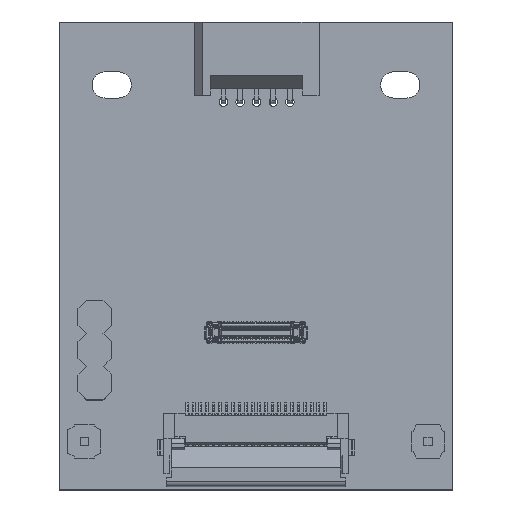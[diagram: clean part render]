
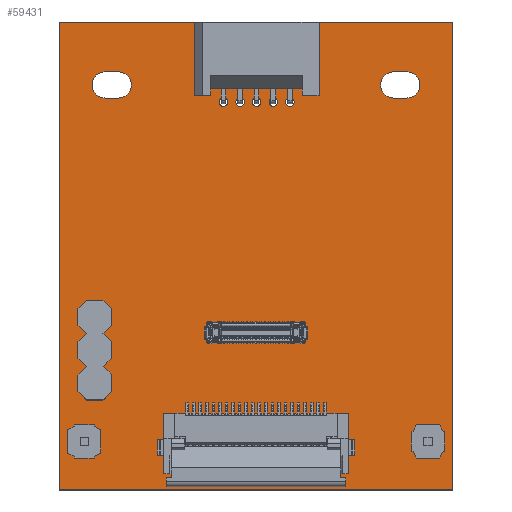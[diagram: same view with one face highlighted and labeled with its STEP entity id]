
A CAD part, top view. The second image highlights one B-rep face of the part: STEP entity #59431.
In plain terms, the highlighted planar face has unit normal (0, 0, 1).
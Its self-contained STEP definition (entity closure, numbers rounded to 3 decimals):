
#634=FACE_BOUND('',#5605,.T.);
#635=FACE_BOUND('',#5606,.T.);
#636=FACE_BOUND('',#5607,.T.);
#637=FACE_BOUND('',#5608,.T.);
#638=FACE_BOUND('',#5609,.T.);
#639=FACE_BOUND('',#5610,.T.);
#640=FACE_BOUND('',#5611,.T.);
#641=FACE_BOUND('',#5612,.T.);
#642=FACE_BOUND('',#5613,.T.);
#643=FACE_BOUND('',#5614,.T.);
#644=FACE_BOUND('',#5615,.T.);
#645=FACE_BOUND('',#5616,.T.);
#728=CIRCLE('',#63270,0.5);
#730=CIRCLE('',#63273,0.5);
#732=CIRCLE('',#63276,0.5);
#734=CIRCLE('',#63279,0.5);
#736=CIRCLE('',#63282,0.325);
#738=CIRCLE('',#63285,1.);
#740=CIRCLE('',#63289,1.);
#742=CIRCLE('',#63293,0.325);
#744=CIRCLE('',#63296,0.5);
#746=CIRCLE('',#63299,0.325);
#748=CIRCLE('',#63302,0.325);
#750=CIRCLE('',#63305,0.325);
#752=CIRCLE('',#63308,1.);
#754=CIRCLE('',#63312,1.);
#2332=FACE_OUTER_BOUND('',#5604,.T.);
#5604=EDGE_LOOP('',(#39071,#39072,#39073,#39074));
#5605=EDGE_LOOP('',(#39075));
#5606=EDGE_LOOP('',(#39076));
#5607=EDGE_LOOP('',(#39077));
#5608=EDGE_LOOP('',(#39078));
#5609=EDGE_LOOP('',(#39079));
#5610=EDGE_LOOP('',(#39080,#39081,#39082,#39083));
#5611=EDGE_LOOP('',(#39084));
#5612=EDGE_LOOP('',(#39085));
#5613=EDGE_LOOP('',(#39086));
#5614=EDGE_LOOP('',(#39087));
#5615=EDGE_LOOP('',(#39088));
#5616=EDGE_LOOP('',(#39089,#39090,#39091,#39092));
#8938=LINE('',#84366,#16636);
#8941=LINE('',#84372,#16639);
#8944=LINE('',#84378,#16642);
#8946=LINE('',#84381,#16644);
#8955=LINE('',#84425,#16653);
#8958=LINE('',#84434,#16656);
#8968=LINE('',#84479,#16666);
#8971=LINE('',#84488,#16669);
#16636=VECTOR('',#67738,1.);
#16639=VECTOR('',#67743,1.);
#16642=VECTOR('',#67748,1.);
#16644=VECTOR('',#67752,1.);
#16653=VECTOR('',#67799,1.);
#16656=VECTOR('',#67810,1.);
#16666=VECTOR('',#67858,1.);
#16669=VECTOR('',#67869,1.);
#24332=VERTEX_POINT('',#84360);
#24334=VERTEX_POINT('',#84364);
#24336=VERTEX_POINT('',#84370);
#24338=VERTEX_POINT('',#84376);
#24339=VERTEX_POINT('',#84383);
#24341=VERTEX_POINT('',#84389);
#24343=VERTEX_POINT('',#84395);
#24345=VERTEX_POINT('',#84401);
#24347=VERTEX_POINT('',#84407);
#24350=VERTEX_POINT('',#84414);
#24351=VERTEX_POINT('',#84416);
#24354=VERTEX_POINT('',#84423);
#24356=VERTEX_POINT('',#84429);
#24357=VERTEX_POINT('',#84437);
#24359=VERTEX_POINT('',#84443);
#24361=VERTEX_POINT('',#84449);
#24363=VERTEX_POINT('',#84455);
#24365=VERTEX_POINT('',#84461);
#24368=VERTEX_POINT('',#84468);
#24369=VERTEX_POINT('',#84470);
#24372=VERTEX_POINT('',#84477);
#24374=VERTEX_POINT('',#84483);
#30084=EDGE_CURVE('',#24332,#24334,#8938,.T.);
#30087=EDGE_CURVE('',#24334,#24336,#8941,.T.);
#30090=EDGE_CURVE('',#24336,#24338,#8944,.T.);
#30092=EDGE_CURVE('',#24338,#24332,#8946,.T.);
#30093=EDGE_CURVE('',#24339,#24339,#728,.T.);
#30096=EDGE_CURVE('',#24341,#24341,#730,.T.);
#30099=EDGE_CURVE('',#24343,#24343,#732,.T.);
#30102=EDGE_CURVE('',#24345,#24345,#734,.T.);
#30105=EDGE_CURVE('',#24347,#24347,#736,.T.);
#30109=EDGE_CURVE('',#24350,#24351,#738,.T.);
#30113=EDGE_CURVE('',#24354,#24350,#8955,.T.);
#30116=EDGE_CURVE('',#24356,#24354,#740,.T.);
#30118=EDGE_CURVE('',#24351,#24356,#8958,.T.);
#30120=EDGE_CURVE('',#24357,#24357,#742,.T.);
#30123=EDGE_CURVE('',#24359,#24359,#744,.T.);
#30126=EDGE_CURVE('',#24361,#24361,#746,.T.);
#30129=EDGE_CURVE('',#24363,#24363,#748,.T.);
#30132=EDGE_CURVE('',#24365,#24365,#750,.T.);
#30136=EDGE_CURVE('',#24368,#24369,#752,.T.);
#30140=EDGE_CURVE('',#24372,#24368,#8968,.T.);
#30143=EDGE_CURVE('',#24374,#24372,#754,.T.);
#30145=EDGE_CURVE('',#24369,#24374,#8971,.T.);
#39071=ORIENTED_EDGE('',*,*,#30084,.T.);
#39072=ORIENTED_EDGE('',*,*,#30087,.T.);
#39073=ORIENTED_EDGE('',*,*,#30090,.T.);
#39074=ORIENTED_EDGE('',*,*,#30092,.T.);
#39075=ORIENTED_EDGE('',*,*,#30093,.F.);
#39076=ORIENTED_EDGE('',*,*,#30096,.F.);
#39077=ORIENTED_EDGE('',*,*,#30099,.F.);
#39078=ORIENTED_EDGE('',*,*,#30102,.F.);
#39079=ORIENTED_EDGE('',*,*,#30105,.F.);
#39080=ORIENTED_EDGE('',*,*,#30109,.F.);
#39081=ORIENTED_EDGE('',*,*,#30113,.F.);
#39082=ORIENTED_EDGE('',*,*,#30116,.F.);
#39083=ORIENTED_EDGE('',*,*,#30118,.F.);
#39084=ORIENTED_EDGE('',*,*,#30120,.F.);
#39085=ORIENTED_EDGE('',*,*,#30123,.F.);
#39086=ORIENTED_EDGE('',*,*,#30126,.F.);
#39087=ORIENTED_EDGE('',*,*,#30129,.F.);
#39088=ORIENTED_EDGE('',*,*,#30132,.F.);
#39089=ORIENTED_EDGE('',*,*,#30136,.F.);
#39090=ORIENTED_EDGE('',*,*,#30140,.F.);
#39091=ORIENTED_EDGE('',*,*,#30143,.F.);
#39092=ORIENTED_EDGE('',*,*,#30145,.F.);
#56730=PLANE('',#63316);
#59431=ADVANCED_FACE('',(#2332,#634,#635,#636,#637,#638,#639,#640,#641,
#642,#643,#644,#645),#56730,.T.);
#63270=AXIS2_PLACEMENT_3D('',#84384,#67755,#67756);
#63273=AXIS2_PLACEMENT_3D('',#84390,#67762,#67763);
#63276=AXIS2_PLACEMENT_3D('',#84396,#67769,#67770);
#63279=AXIS2_PLACEMENT_3D('',#84402,#67776,#67777);
#63282=AXIS2_PLACEMENT_3D('',#84408,#67783,#67784);
#63285=AXIS2_PLACEMENT_3D('',#84417,#67791,#67792);
#63289=AXIS2_PLACEMENT_3D('',#84431,#67804,#67805);
#63293=AXIS2_PLACEMENT_3D('',#84438,#67814,#67815);
#63296=AXIS2_PLACEMENT_3D('',#84444,#67821,#67822);
#63299=AXIS2_PLACEMENT_3D('',#84450,#67828,#67829);
#63302=AXIS2_PLACEMENT_3D('',#84456,#67835,#67836);
#63305=AXIS2_PLACEMENT_3D('',#84462,#67842,#67843);
#63308=AXIS2_PLACEMENT_3D('',#84471,#67850,#67851);
#63312=AXIS2_PLACEMENT_3D('',#84485,#67863,#67864);
#63316=AXIS2_PLACEMENT_3D('',#84491,#67873,#67874);
#67738=DIRECTION('',(1.,0.,0.));
#67743=DIRECTION('',(0.,1.,0.));
#67748=DIRECTION('',(-1.,0.,0.));
#67752=DIRECTION('',(0.,-1.,0.));
#67755=DIRECTION('center_axis',(0.,0.,1.));
#67756=DIRECTION('ref_axis',(1.,0.,0.));
#67762=DIRECTION('center_axis',(0.,0.,1.));
#67763=DIRECTION('ref_axis',(1.,0.,0.));
#67769=DIRECTION('center_axis',(0.,0.,1.));
#67770=DIRECTION('ref_axis',(1.,0.,0.));
#67776=DIRECTION('center_axis',(0.,0.,1.));
#67777=DIRECTION('ref_axis',(1.,0.,0.));
#67783=DIRECTION('center_axis',(0.,0.,1.));
#67784=DIRECTION('ref_axis',(1.,0.,0.));
#67791=DIRECTION('center_axis',(0.,0.,1.));
#67792=DIRECTION('ref_axis',(0.,1.,0.));
#67799=DIRECTION('',(-1.,0.,0.));
#67804=DIRECTION('center_axis',(0.,0.,1.));
#67805=DIRECTION('ref_axis',(0.,-1.,0.));
#67810=DIRECTION('',(1.,0.,0.));
#67814=DIRECTION('center_axis',(0.,0.,1.));
#67815=DIRECTION('ref_axis',(1.,0.,0.));
#67821=DIRECTION('center_axis',(0.,0.,1.));
#67822=DIRECTION('ref_axis',(1.,0.,0.));
#67828=DIRECTION('center_axis',(0.,0.,1.));
#67829=DIRECTION('ref_axis',(1.,0.,0.));
#67835=DIRECTION('center_axis',(0.,0.,1.));
#67836=DIRECTION('ref_axis',(1.,0.,0.));
#67842=DIRECTION('center_axis',(0.,0.,1.));
#67843=DIRECTION('ref_axis',(1.,0.,0.));
#67850=DIRECTION('center_axis',(0.,0.,1.));
#67851=DIRECTION('ref_axis',(0.,1.,0.));
#67858=DIRECTION('',(-1.,0.,0.));
#67863=DIRECTION('center_axis',(0.,0.,1.));
#67864=DIRECTION('ref_axis',(0.,-1.,0.));
#67869=DIRECTION('',(1.,0.,0.));
#67873=DIRECTION('center_axis',(0.,0.,1.));
#67874=DIRECTION('ref_axis',(1.,0.,0.));
#84360=CARTESIAN_POINT('',(0.,0.,0.));
#84364=CARTESIAN_POINT('',(30.,0.,0.));
#84366=CARTESIAN_POINT('',(0.,0.,0.));
#84370=CARTESIAN_POINT('',(30.,35.696,0.));
#84372=CARTESIAN_POINT('',(30.,0.,0.));
#84376=CARTESIAN_POINT('',(0.,35.696,0.));
#84378=CARTESIAN_POINT('',(30.,35.696,0.));
#84381=CARTESIAN_POINT('',(0.,35.696,0.));
#84383=CARTESIAN_POINT('',(1.4,3.7,0.));
#84384=CARTESIAN_POINT('Origin',(1.9,3.7,0.));
#84389=CARTESIAN_POINT('',(2.189,8.125,0.));
#84390=CARTESIAN_POINT('Origin',(2.689,8.125,0.));
#84395=CARTESIAN_POINT('',(2.189,10.665,0.));
#84396=CARTESIAN_POINT('Origin',(2.689,10.665,0.));
#84401=CARTESIAN_POINT('',(2.189,13.205,0.));
#84402=CARTESIAN_POINT('Origin',(2.689,13.205,0.));
#84407=CARTESIAN_POINT('',(12.185,29.6,0.));
#84408=CARTESIAN_POINT('Origin',(12.51,29.6,0.));
#84414=CARTESIAN_POINT('',(3.5,31.9,0.));
#84416=CARTESIAN_POINT('',(3.5,29.9,0.));
#84417=CARTESIAN_POINT('Origin',(3.5,30.9,0.));
#84423=CARTESIAN_POINT('',(4.5,31.9,0.));
#84425=CARTESIAN_POINT('',(4.5,31.9,0.));
#84429=CARTESIAN_POINT('',(4.5,29.9,0.));
#84431=CARTESIAN_POINT('Origin',(4.5,30.9,0.));
#84434=CARTESIAN_POINT('',(3.5,29.9,0.));
#84437=CARTESIAN_POINT('',(13.455,29.6,0.));
#84438=CARTESIAN_POINT('Origin',(13.78,29.6,0.));
#84443=CARTESIAN_POINT('',(27.625,3.7,0.));
#84444=CARTESIAN_POINT('Origin',(28.125,3.7,0.));
#84449=CARTESIAN_POINT('',(14.725,29.6,0.));
#84450=CARTESIAN_POINT('Origin',(15.05,29.6,0.));
#84455=CARTESIAN_POINT('',(15.995,29.6,0.));
#84456=CARTESIAN_POINT('Origin',(16.32,29.6,0.));
#84461=CARTESIAN_POINT('',(17.265,29.6,0.));
#84462=CARTESIAN_POINT('Origin',(17.59,29.6,0.));
#84468=CARTESIAN_POINT('',(25.5,31.9,0.));
#84470=CARTESIAN_POINT('',(25.5,29.9,0.));
#84471=CARTESIAN_POINT('Origin',(25.5,30.9,0.));
#84477=CARTESIAN_POINT('',(26.5,31.9,0.));
#84479=CARTESIAN_POINT('',(26.5,31.9,0.));
#84483=CARTESIAN_POINT('',(26.5,29.9,0.));
#84485=CARTESIAN_POINT('Origin',(26.5,30.9,0.));
#84488=CARTESIAN_POINT('',(25.5,29.9,0.));
#84491=CARTESIAN_POINT('Origin',(15.,17.848,0.));
